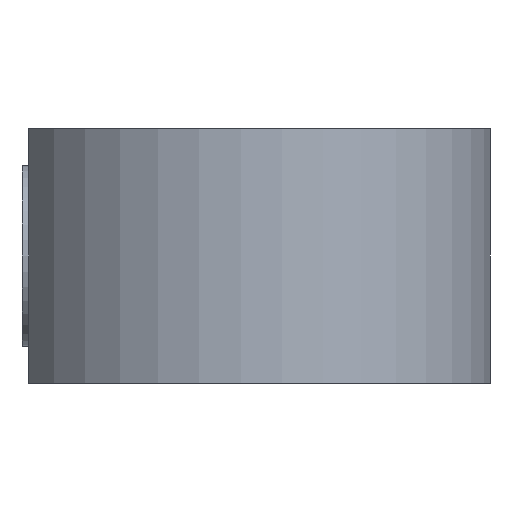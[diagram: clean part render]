
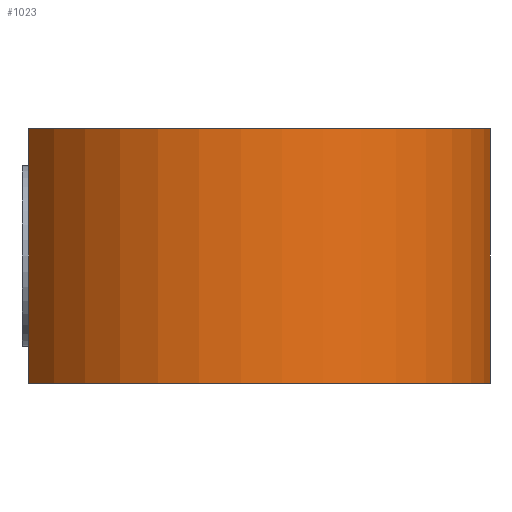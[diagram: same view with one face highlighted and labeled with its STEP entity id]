
A CAD part, left-side view. The second image highlights one B-rep face of the part: STEP entity #1023.
In plain terms, the highlighted cylindrical face has radius 34.5 mm (diameter 69 mm), a partial arc.
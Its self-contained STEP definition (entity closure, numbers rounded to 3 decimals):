
#157 = EDGE_LOOP ( 'NONE', ( #2429, #3492, #860, #3164 ) ) ;
#176 = VECTOR ( 'NONE', #1768, 1000. ) ;
#250 = CARTESIAN_POINT ( 'NONE',  ( 0., 0., 23.327 ) ) ;
#420 = EDGE_CURVE ( 'NONE', #3209, #1339, #1382, .T. ) ;
#424 = VERTEX_POINT ( 'NONE', #1067 ) ;
#432 = LINE ( 'NONE', #3147, #176 ) ;
#494 = CIRCLE ( 'NONE', #2892, 34.5 ) ;
#538 = CARTESIAN_POINT ( 'NONE',  ( -18.688, 29., 17.5 ) ) ;
#648 = DIRECTION ( 'NONE',  ( 1., 0., 0. ) ) ;
#657 = EDGE_CURVE ( 'NONE', #2351, #1339, #432, .T. ) ;
#860 = ORIENTED_EDGE ( 'NONE', *, *, #420, .F. ) ;
#1023 = ADVANCED_FACE ( 'NONE', ( #3535 ), #2055, .T. ) ;
#1031 = DIRECTION ( 'NONE',  ( 0., 0., 1. ) ) ;
#1067 = CARTESIAN_POINT ( 'NONE',  ( -18.688, 29., -17.5 ) ) ;
#1186 = LINE ( 'NONE', #2691, #1527 ) ;
#1339 = VERTEX_POINT ( 'NONE', #3522 ) ;
#1382 = CIRCLE ( 'NONE', #2529, 34.5 ) ;
#1488 = DIRECTION ( 'NONE',  ( 0., 0., 1. ) ) ;
#1527 = VECTOR ( 'NONE', #1604, 1000. ) ;
#1604 = DIRECTION ( 'NONE',  ( 0., 0., 1. ) ) ;
#1634 = EDGE_CURVE ( 'NONE', #424, #2351, #494, .T. ) ;
#1647 = DIRECTION ( 'NONE',  ( 1., 0., 0. ) ) ;
#1768 = DIRECTION ( 'NONE',  ( 0., 0., 1. ) ) ;
#2055 = CYLINDRICAL_SURFACE ( 'NONE', #2506, 34.5 ) ;
#2300 = EDGE_CURVE ( 'NONE', #424, #3209, #1186, .T. ) ;
#2351 = VERTEX_POINT ( 'NONE', #3236 ) ;
#2429 = ORIENTED_EDGE ( 'NONE', *, *, #1634, .T. ) ;
#2506 = AXIS2_PLACEMENT_3D ( 'NONE', #250, #3554, #1647 ) ;
#2529 = AXIS2_PLACEMENT_3D ( 'NONE', #2988, #1031, #2681 ) ;
#2681 = DIRECTION ( 'NONE',  ( 1., 0., 0. ) ) ;
#2691 = CARTESIAN_POINT ( 'NONE',  ( -18.688, 29., 23.327 ) ) ;
#2854 = CARTESIAN_POINT ( 'NONE',  ( 0., 0., -17.5 ) ) ;
#2892 = AXIS2_PLACEMENT_3D ( 'NONE', #2854, #1488, #648 ) ;
#2988 = CARTESIAN_POINT ( 'NONE',  ( 0., 0., 17.5 ) ) ;
#3147 = CARTESIAN_POINT ( 'NONE',  ( 30.884, -15.377, 23.327 ) ) ;
#3164 = ORIENTED_EDGE ( 'NONE', *, *, #2300, .F. ) ;
#3209 = VERTEX_POINT ( 'NONE', #538 ) ;
#3236 = CARTESIAN_POINT ( 'NONE',  ( 30.884, -15.377, -17.5 ) ) ;
#3492 = ORIENTED_EDGE ( 'NONE', *, *, #657, .T. ) ;
#3522 = CARTESIAN_POINT ( 'NONE',  ( 30.884, -15.377, 17.5 ) ) ;
#3535 = FACE_OUTER_BOUND ( 'NONE', #157, .T. ) ;
#3554 = DIRECTION ( 'NONE',  ( 0., 0., 1. ) ) ;
